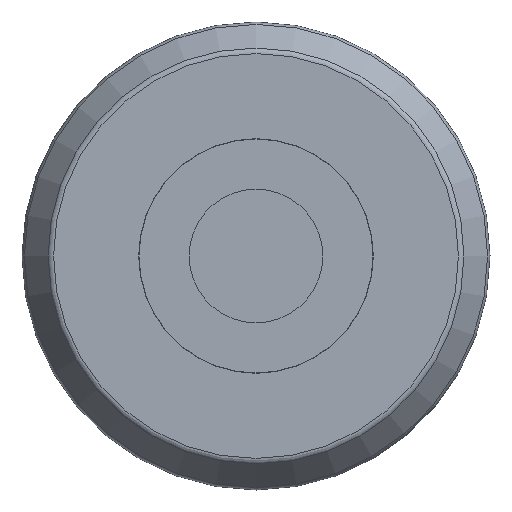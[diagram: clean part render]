
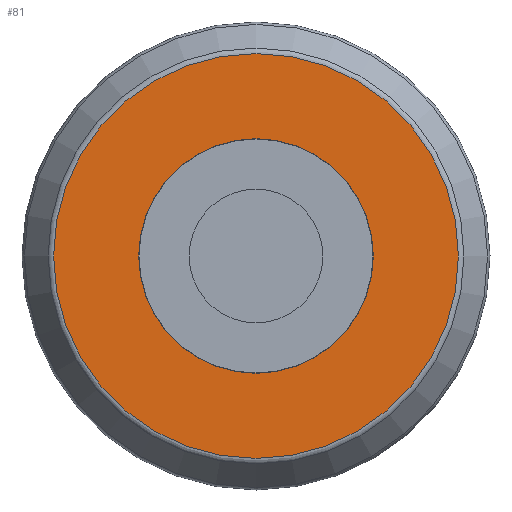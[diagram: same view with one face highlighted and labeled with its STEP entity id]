
A CAD part, left-side view. The second image highlights one B-rep face of the part: STEP entity #81.
In plain terms, the highlighted planar face has unit normal (-1, 0, 0).
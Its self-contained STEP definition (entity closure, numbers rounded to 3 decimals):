
#81 = ADVANCED_FACE( '', ( #121, #122 ), #123, .F. );
#121 = FACE_OUTER_BOUND( '', #198, .T. );
#122 = FACE_BOUND( '', #199, .T. );
#123 = PLANE( '', #200 );
#198 = EDGE_LOOP( '', ( #287 ) );
#199 = EDGE_LOOP( '', ( #288 ) );
#200 = AXIS2_PLACEMENT_3D( '', #289, #290, #291 );
#287 = ORIENTED_EDGE( '', *, *, #425, .F. );
#288 = ORIENTED_EDGE( '', *, *, #424, .T. );
#289 = CARTESIAN_POINT( '', ( -5.5, 8.77, 0. ) );
#290 = DIRECTION( '', ( 1., 0., 0. ) );
#291 = DIRECTION( '', ( 0., 1., 0. ) );
#424 = EDGE_CURVE( '', #468, #468, #469, .T. );
#425 = EDGE_CURVE( '', #470, #470, #471, .T. );
#468 = VERTEX_POINT( '', #538 );
#469 = CIRCLE( '', #539, 8.77 );
#470 = VERTEX_POINT( '', #540 );
#471 = CIRCLE( '', #541, 15.139 );
#538 = CARTESIAN_POINT( '', ( -5.5, 8.77, 0. ) );
#539 = AXIS2_PLACEMENT_3D( '', #631, #632, #633 );
#540 = CARTESIAN_POINT( '', ( -5.5, 15.139, 0. ) );
#541 = AXIS2_PLACEMENT_3D( '', #634, #635, #636 );
#631 = CARTESIAN_POINT( '', ( -5.5, 0., 0. ) );
#632 = DIRECTION( '', ( 1., 0., 0. ) );
#633 = DIRECTION( '', ( 0., 1., 0. ) );
#634 = CARTESIAN_POINT( '', ( -5.5, 0., 0. ) );
#635 = DIRECTION( '', ( 1., 0., 0. ) );
#636 = DIRECTION( '', ( 0., 1., 0. ) );
